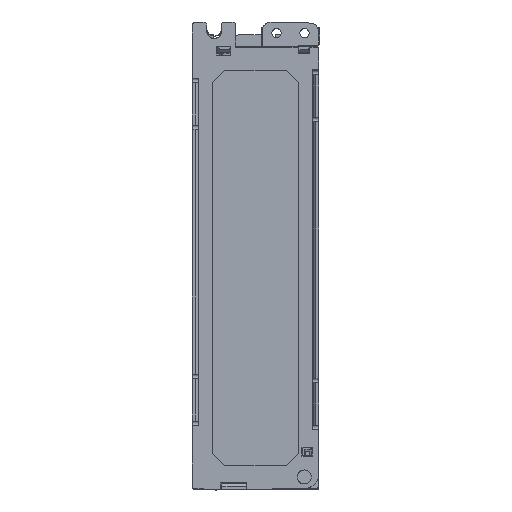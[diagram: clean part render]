
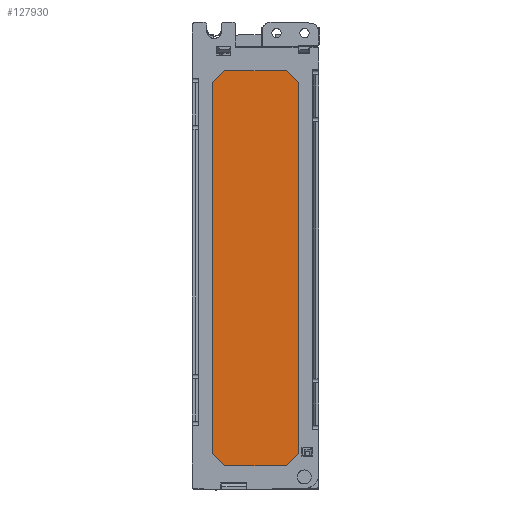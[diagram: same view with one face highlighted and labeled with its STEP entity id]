
A CAD part, front view. The second image highlights one B-rep face of the part: STEP entity #127930.
In plain terms, the highlighted planar face has unit normal (0, 1, 0).
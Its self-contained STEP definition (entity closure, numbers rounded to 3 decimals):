
#98823=DIRECTION('',(0.707,0.,-0.707));
#98824=VECTOR('',#98823,6.082);
#98825=CARTESIAN_POINT('',(-21.876,-88.634,
-66.2));
#98826=LINE('',#98825,#98824);
#98827=DIRECTION('',(1.,0.,0.));
#98828=VECTOR('',#98827,22.);
#98829=CARTESIAN_POINT('',(-17.576,-88.634,
-70.501));
#98830=LINE('',#98829,#98828);
#98831=DIRECTION('',(0.707,0.,0.707));
#98832=VECTOR('',#98831,6.082);
#98833=CARTESIAN_POINT('',(4.425,-88.634,
-70.501));
#98834=LINE('',#98833,#98832);
#98835=DIRECTION('',(-0.707,0.,0.707));
#98836=VECTOR('',#98835,6.082);
#98837=CARTESIAN_POINT('',(8.725,-88.634,
66.2));
#98838=LINE('',#98837,#98836);
#98839=DIRECTION('',(-0.707,0.,-0.707));
#98840=VECTOR('',#98839,6.082);
#98841=CARTESIAN_POINT('',(-17.576,-88.634,
70.501));
#98842=LINE('',#98841,#98840);
#98843=DIRECTION('',(0.,0.,1.));
#98844=VECTOR('',#98843,132.4);
#98845=CARTESIAN_POINT('',(-21.876,-88.634,
-66.2));
#98846=LINE('',#98845,#98844);
#98865=DIRECTION('',(1.,0.,0.));
#98866=VECTOR('',#98865,22.);
#98867=CARTESIAN_POINT('',(-17.576,-88.634,
70.501));
#98868=LINE('',#98867,#98866);
#98874=DIRECTION('',(0.,0.,-1.));
#98875=VECTOR('',#98874,132.4);
#98876=CARTESIAN_POINT('',(8.725,-88.634,
66.2));
#98877=LINE('',#98876,#98875);
#111627=CARTESIAN_POINT('',(-17.576,-88.634,
-70.501));
#111628=CARTESIAN_POINT('',(4.425,-88.634,
-70.501));
#111629=VERTEX_POINT('',#111627);
#111630=VERTEX_POINT('',#111628);
#111631=CARTESIAN_POINT('',(-21.876,-88.634,
-66.2));
#111632=CARTESIAN_POINT('',(-21.876,-88.634,
66.2));
#111633=VERTEX_POINT('',#111631);
#111634=VERTEX_POINT('',#111632);
#111635=CARTESIAN_POINT('',(-17.576,-88.634,
70.501));
#111636=VERTEX_POINT('',#111635);
#111637=CARTESIAN_POINT('',(4.425,-88.634,
70.501));
#111638=VERTEX_POINT('',#111637);
#111639=CARTESIAN_POINT('',(8.725,-88.634,
66.2));
#111640=VERTEX_POINT('',#111639);
#111641=CARTESIAN_POINT('',(8.725,-88.634,
-66.2));
#111642=VERTEX_POINT('',#111641);
#127908=CARTESIAN_POINT('',(-6.575,-88.634,0.));
#127909=DIRECTION('',(0.,1.,0.));
#127910=DIRECTION('',(1.,0.,0.));
#127911=AXIS2_PLACEMENT_3D('',#127908,#127909,#127910);
#127912=PLANE('',#127911);
#127914=ORIENTED_EDGE('',*,*,#127913,.F.);
#127916=ORIENTED_EDGE('',*,*,#127915,.T.);
#127917=ORIENTED_EDGE('',*,*,#127898,.T.);
#127919=ORIENTED_EDGE('',*,*,#127918,.T.);
#127921=ORIENTED_EDGE('',*,*,#127920,.F.);
#127923=ORIENTED_EDGE('',*,*,#127922,.T.);
#127925=ORIENTED_EDGE('',*,*,#127924,.F.);
#127927=ORIENTED_EDGE('',*,*,#127926,.T.);
#127928=EDGE_LOOP('',(#127914,#127916,#127917,#127919,#127921,#127923,#127925,
#127927));
#127929=FACE_OUTER_BOUND('',#127928,.F.);
#127930=ADVANCED_FACE('',(#127929),#127912,.T.);
#127898=EDGE_CURVE('',#111629,#111630,#98830,.T.);
#127913=EDGE_CURVE('',#111633,#111634,#98846,.T.);
#127915=EDGE_CURVE('',#111633,#111629,#98826,.T.);
#127918=EDGE_CURVE('',#111630,#111642,#98834,.T.);
#127920=EDGE_CURVE('',#111640,#111642,#98877,.T.);
#127922=EDGE_CURVE('',#111640,#111638,#98838,.T.);
#127924=EDGE_CURVE('',#111636,#111638,#98868,.T.);
#127926=EDGE_CURVE('',#111636,#111634,#98842,.T.);
